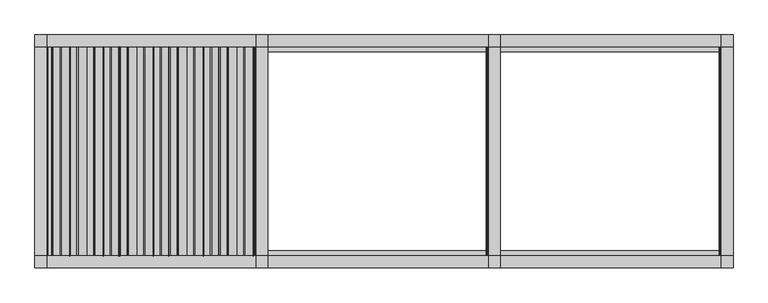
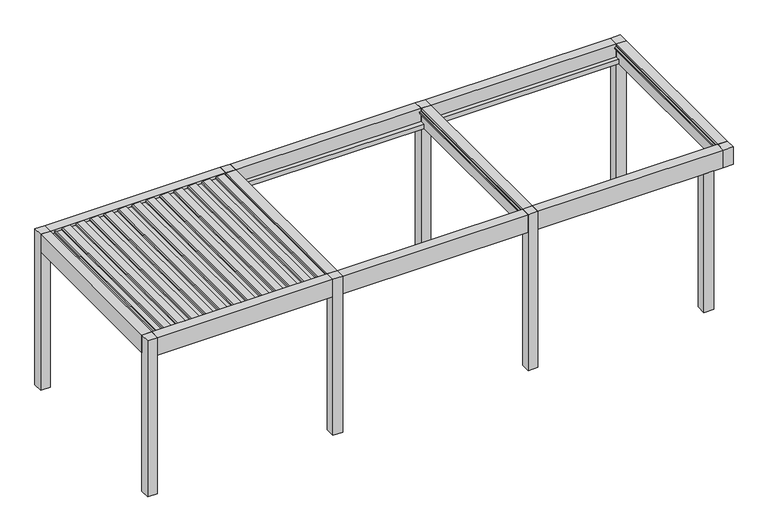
"""IFC4 building model written with IfcOpenShell, lengths in millimetres: proxy geometry, Renson_Amani_Patio_Cover : Renson_Amani_Patio_Cover."""

from ifc_helpers import new_model, si_unit, point, frame, frame_2d, origin, origin_with_axes, place, context, project, spatial, polyline, circle_curve, trimmed, segment, composite_curve, outline, extrude, source, transform, mapped, element, save


def generic_models_67e6f143(model_context):
    return source(origin(), model_context, "Body", "SweptSolid", [
        extrude(outline(composite_curve([segment(polyline([(2483.35, 1073.7289238), (2511.01198, 1076.1490335), (2512.3970364, 1104.984284), (2531.8911096, 1101.5469529), (2526.6075693, 991.549838)]), True, "CONTINUOUS"), segment(trimmed(circle_curve(frame_2d((2511.6248435, 992.26951)), 15.0), [point((2526.6075693, 991.549838))], [point((2514.2295662, 977.4973937))], False, "CARTESIAN"), True, "CONTINUOUS"), segment(polyline([(2514.2295662, 977.4973937), (2495.0, 974.1067023), (2495.0, 886.3709263), (2512.0788237, 883.3594689), (2511.3450182, 868.0824984), (2483.35, 865.6332517), (2483.35, 1073.7289238)]), True, "CONTINUOUS")], self_intersect=False)), frame((0.0, -1350.0, 0.0), z_axis=(0.0, 1.0, 0.0), x_axis=(0.0, 0.0, 1.0)), (0.0, 0.0, 1.0), 2700.0),
        extrude(outline(composite_curve([segment(polyline([(2483.35, 858.7132078), (2511.01198, 861.1333174), (2512.3970364, 889.9685679), (2531.8911096, 886.5312368), (2526.6075693, 776.534122)]), True, "CONTINUOUS"), segment(trimmed(circle_curve(frame_2d((2511.6248435, 777.2537939)), 15.0), [point((2526.6075693, 776.534122))], [point((2514.2295662, 762.4816776))], False, "CARTESIAN"), True, "CONTINUOUS"), segment(polyline([(2514.2295662, 762.4816776), (2495.0, 759.0909863), (2495.0, 671.3552102), (2512.0788237, 668.3437528), (2511.3450182, 653.0667824), (2483.35, 650.6175356), (2483.35, 858.7132078)]), True, "CONTINUOUS")], self_intersect=False)), frame((0.0, -1350.0, 0.0), z_axis=(0.0, 1.0, 0.0), x_axis=(0.0, 0.0, 1.0)), (0.0, 0.0, 1.0), 2700.0),
        extrude(outline(composite_curve([segment(polyline([(2483.35, 643.6974917), (2511.01198, 646.1176014), (2512.3970364, 674.9528519), (2531.8911096, 671.5155208), (2526.6075693, 561.5184059)]), True, "CONTINUOUS"), segment(trimmed(circle_curve(frame_2d((2511.6248435, 562.2380779)), 15.0), [point((2526.6075693, 561.5184059))], [point((2514.2295662, 547.4659616))], False, "CARTESIAN"), True, "CONTINUOUS"), segment(polyline([(2514.2295662, 547.4659616), (2495.0, 544.0752702), (2495.0, 456.3394942), (2512.0788237, 453.3280368), (2511.3450182, 438.0510663), (2483.35, 435.6018196), (2483.35, 643.6974917)]), True, "CONTINUOUS")], self_intersect=False)), frame((0.0, -1350.0, 0.0), z_axis=(0.0, 1.0, 0.0), x_axis=(0.0, 0.0, 1.0)), (0.0, 0.0, 1.0), 2700.0),
        extrude(outline(composite_curve([segment(polyline([(2483.35, 428.6817757), (2511.01198, 431.1018854), (2512.3970364, 459.9371358), (2531.8911096, 456.4998047), (2526.6075693, 346.5026899)]), True, "CONTINUOUS"), segment(trimmed(circle_curve(frame_2d((2511.6248435, 347.2223618)), 15.0), [point((2526.6075693, 346.5026899))], [point((2514.2295662, 332.4502455))], False, "CARTESIAN"), True, "CONTINUOUS"), segment(polyline([(2514.2295662, 332.4502455), (2495.0, 329.0595542), (2495.0, 241.3237782), (2512.0788237, 238.3123207), (2511.3450182, 223.0353503), (2483.35, 220.5861035), (2483.35, 428.6817757)]), True, "CONTINUOUS")], self_intersect=False)), frame((0.0, -1350.0, 0.0), z_axis=(0.0, 1.0, 0.0), x_axis=(0.0, 0.0, 1.0)), (0.0, 0.0, 1.0), 2700.0),
        extrude(outline(composite_curve([segment(polyline([(2483.35, 213.6660597), (2511.01198, 216.0861693), (2512.3970364, 244.9214198), (2531.8911096, 241.4840887), (2526.6075693, 131.4869738)]), True, "CONTINUOUS"), segment(trimmed(circle_curve(frame_2d((2511.6248435, 132.2066458)), 15.0), [point((2526.6075693, 131.4869738))], [point((2514.2295662, 117.4345295))], False, "CARTESIAN"), True, "CONTINUOUS"), segment(polyline([(2514.2295662, 117.4345295), (2495.0, 114.0438381), (2495.0, 26.3080621), (2512.0788237, 23.2966047), (2511.3450182, 8.0196342), (2483.35, 5.5703875), (2483.35, 213.6660597)]), True, "CONTINUOUS")], self_intersect=False)), frame((0.0, -1350.0, 0.0), z_axis=(0.0, 1.0, 0.0), x_axis=(0.0, 0.0, 1.0)), (0.0, 0.0, 1.0), 2700.0),
        extrude(outline(composite_curve([segment(polyline([(2483.35, -1.3496564), (2511.01198, 1.0704533), (2512.3970364, 29.9057037), (2531.8911096, 26.4683726), (2526.6075693, -83.5287422)]), True, "CONTINUOUS"), segment(trimmed(circle_curve(frame_2d((2511.6248435, -82.8090703)), 15.0), [point((2526.6075693, -83.5287422))], [point((2514.2295662, -97.5811866))], False, "CARTESIAN"), True, "CONTINUOUS"), segment(polyline([(2514.2295662, -97.5811866), (2495.0, -100.9718779), (2495.0, -188.7076539), (2512.0788237, -191.7191114), (2511.3450182, -206.9960818), (2483.35, -209.4453286), (2483.35, -1.3496564)]), True, "CONTINUOUS")], self_intersect=False)), frame((0.0, -1350.0, 0.0), z_axis=(0.0, 1.0, 0.0), x_axis=(0.0, 0.0, 1.0)), (0.0, 0.0, 1.0), 2700.0),
        extrude(outline(composite_curve([segment(polyline([(2483.35, -216.3653724), (2511.01198, -213.9452628), (2512.3970364, -185.1100123), (2531.8911096, -188.5473434), (2526.6075693, -298.5444582)]), True, "CONTINUOUS"), segment(trimmed(circle_curve(frame_2d((2511.6248435, -297.8247863)), 15.0), [point((2526.6075693, -298.5444582))], [point((2514.2295662, -312.5969026))], False, "CARTESIAN"), True, "CONTINUOUS"), segment(polyline([(2514.2295662, -312.5969026), (2495.0, -315.987594), (2495.0, -403.72337), (2512.0788237, -406.7348274), (2511.3450182, -422.0117979), (2483.35, -424.4610446), (2483.35, -216.3653724)]), True, "CONTINUOUS")], self_intersect=False)), frame((0.0, -1350.0, 0.0), z_axis=(0.0, 1.0, 0.0), x_axis=(0.0, 0.0, 1.0)), (0.0, 0.0, 1.0), 2700.0),
        extrude(outline(composite_curve([segment(polyline([(2483.35, -431.3810885), (2511.01198, -428.9609788), (2512.3970364, -400.1257284), (2531.8911096, -403.5630594), (2526.6075693, -513.5601743)]), True, "CONTINUOUS"), segment(trimmed(circle_curve(frame_2d((2511.6248435, -512.8405024)), 15.0), [point((2526.6075693, -513.5601743))], [point((2514.2295662, -527.6126187))], False, "CARTESIAN"), True, "CONTINUOUS"), segment(polyline([(2514.2295662, -527.6126187), (2495.0, -531.00331), (2495.0, -618.739086), (2512.0788237, -621.7505434), (2511.3450182, -637.0275139), (2483.35, -639.4767606), (2483.35, -431.3810885)]), True, "CONTINUOUS")], self_intersect=False)), frame((0.0, -1350.0, 0.0), z_axis=(0.0, 1.0, 0.0), x_axis=(0.0, 0.0, 1.0)), (0.0, 0.0, 1.0), 2700.0),
        extrude(outline(composite_curve([segment(polyline([(2483.35, -646.3968045), (2511.01198, -643.9766949), (2512.3970364, -615.1414444), (2531.8911096, -618.5787755), (2526.6075693, -728.5758903)]), True, "CONTINUOUS"), segment(trimmed(circle_curve(frame_2d((2511.6248435, -727.8562184)), 15.0), [point((2526.6075693, -728.5758903))], [point((2514.2295662, -742.6283347))], False, "CARTESIAN"), True, "CONTINUOUS"), segment(polyline([(2514.2295662, -742.6283347), (2495.0, -746.019026), (2495.0, -833.7548021), (2512.0788237, -836.7662595), (2511.3450182, -852.04323), (2483.35, -854.4924767), (2483.35, -646.3968045)]), True, "CONTINUOUS")], self_intersect=False)), frame((0.0, -1350.0, 0.0), z_axis=(0.0, 1.0, 0.0), x_axis=(0.0, 0.0, 1.0)), (0.0, 0.0, 1.0), 2700.0),
        extrude(outline(composite_curve([segment(polyline([(2483.35, -861.4125206), (2511.01198, -858.9924109), (2512.3970364, -830.1571605), (2531.8911096, -833.5944915), (2526.6075693, -943.5916064)]), True, "CONTINUOUS"), segment(trimmed(circle_curve(frame_2d((2511.6248435, -942.8719345)), 15.0), [point((2526.6075693, -943.5916064))], [point((2514.2295662, -957.6440508))], False, "CARTESIAN"), True, "CONTINUOUS"), segment(polyline([(2514.2295662, -957.6440508), (2495.0, -961.0347421), (2495.0, -1048.7705181), (2512.0788237, -1051.7819755), (2511.3450182, -1067.058946), (2483.35, -1069.5081927), (2483.35, -861.4125206)]), True, "CONTINUOUS")], self_intersect=False)), frame((0.0, -1350.0, 0.0), z_axis=(0.0, 1.0, 0.0), x_axis=(0.0, 0.0, 1.0)), (0.0, 0.0, 1.0), 2700.0),
        extrude(outline(composite_curve([segment(polyline([(2483.35, 1288.7446399), (2511.01198, 1291.1647495), (2512.3970364, 1320.0), (2531.8911096, 1316.5626689), (2526.6075693, 1206.5655541)]), True, "CONTINUOUS"), segment(trimmed(circle_curve(frame_2d((2511.6248435, 1207.285226)), 15.0), [point((2526.6075693, 1206.5655541))], [point((2514.2295662, 1192.5131097))], False, "CARTESIAN"), True, "CONTINUOUS"), segment(polyline([(2514.2295662, 1192.5131097), (2495.0, 1189.1224184), (2495.0, 1101.3866423), (2512.0788237, 1098.3751849), (2511.3450182, 1083.0982144), (2483.35, 1080.6489677), (2483.35, 1288.7446399)]), True, "CONTINUOUS")], self_intersect=False)), frame((0.0, -1350.0, 0.0), z_axis=(0.0, 1.0, 0.0), x_axis=(0.0, 0.0, 1.0)), (0.0, 0.0, 1.0), 2700.0),
        extrude(outline(composite_curve([segment(polyline([(2483.35, -1076.4282366), (2511.01198, -1074.008127), (2512.3970364, -1045.1728765), (2531.8911096, -1048.6102076), (2526.6075693, -1158.6073224)]), True, "CONTINUOUS"), segment(trimmed(circle_curve(frame_2d((2511.6248435, -1157.8876505)), 15.0), [point((2526.6075693, -1158.6073224))], [point((2514.2295662, -1172.6597668))], False, "CARTESIAN"), True, "CONTINUOUS"), segment(polyline([(2514.2295662, -1172.6597668), (2495.0, -1176.0504581), (2495.0, -1263.7862342), (2512.0788237, -1266.7976916), (2511.3450182, -1282.0746621), (2483.35, -1284.5239088), (2483.35, -1076.4282366)]), True, "CONTINUOUS")], self_intersect=False)), frame((0.0, -1350.0, 0.0), z_axis=(0.0, 1.0, 0.0), x_axis=(0.0, 0.0, 1.0)), (0.0, 0.0, 1.0), 2700.0),
        extrude(outline(polyline([(7200.0, -1350.0), (7200.0, -1500.0), (7050.0, -1500.0), (7050.0, -1350.0), (7200.0, -1350.0)])), origin_with_axes(), (0.0, 0.0, 1.0), 2250.0),
        extrude(outline(polyline([(7500.0, 1500.0), (7500.0, 1350.0), (7350.0, 1350.0), (7350.0, 1500.0), (7500.0, 1500.0)])), origin_with_axes(), (0.0, 0.0, 1.0), 2535.0),
        extrude(outline(polyline([(4500.0, 1500.0), (4500.0, 1350.0), (4350.0, 1350.0), (4350.0, 1500.0), (4500.0, 1500.0)])), origin_with_axes(), (0.0, 0.0, 1.0), 2535.0),
        extrude(outline(polyline([(7500.0, -1350.0), (7500.0, -1500.0), (7350.0, -1500.0), (7350.0, -1350.0), (7500.0, -1350.0)])), frame((0.0, 0.0, 2250.0), z_axis=(0.0, 0.0, 1.0), x_axis=(1.0, 0.0, 0.0)), (0.0, 0.0, 1.0), 285.0),
        extrude(outline(polyline([(4500.0, -1350.0), (4500.0, -1500.0), (4350.0, -1500.0), (4350.0, -1350.0), (4500.0, -1350.0)])), origin_with_axes(), (0.0, 0.0, 1.0), 2535.0),
        extrude(outline(polyline([(1500.0, -1350.0), (1500.0, -1500.0), (1350.0, -1500.0), (1350.0, -1350.0), (1500.0, -1350.0)])), origin_with_axes(), (0.0, 0.0, 1.0), 2535.0),
        extrude(outline(polyline([(1500.0, 1500.0), (1500.0, 1350.0), (1350.0, 1350.0), (1350.0, 1500.0), (1500.0, 1500.0)])), origin_with_axes(), (0.0, 0.0, 1.0), 2535.0),
        extrude(outline(polyline([(-1350.0, 1350.0), (-1500.0, 1350.0), (-1500.0, 1500.0), (-1350.0, 1500.0), (-1350.0, 1350.0)])), origin_with_axes(), (0.0, 0.0, 1.0), 2535.0),
        extrude(outline(polyline([(-1350.0, -1350.0), (-1350.0, -1500.0), (-1500.0, -1500.0), (-1500.0, -1350.0), (-1350.0, -1350.0)])), origin_with_axes(), (0.0, 0.0, 1.0), 2535.0),
        extrude(outline(polyline([(-1350.0, 2535.0), (-1350.0, 2322.0), (-1280.0000001, 2322.0), (-1280.0000001, 2250.0), (-1500.0, 2250.0), (-1500.0, 2535.0), (-1350.0, 2535.0)])), frame((4500.0, 0.0, 0.0), z_axis=(1.0, 0.0, 0.0), x_axis=(0.0, 1.0, 0.0)), (0.0, 0.0, 1.0), 2850.0),
        extrude(outline(polyline([(1500.0, 2250.0), (1280.0000001, 2250.0), (1280.0000001, 2322.0), (1350.0, 2322.0), (1350.0, 2535.0), (1500.0, 2535.0), (1500.0, 2250.0)])), frame((4500.0, 0.0, 0.0), z_axis=(1.0, 0.0, 0.0), x_axis=(0.0, 1.0, 0.0)), (0.0, 0.0, 1.0), 2850.0),
        extrude(outline(polyline([(2535.0, 7500.0), (2535.0, 7350.0), (2504.6823598, 7350.0), (2504.2449277, 7345.0), (2496.400763, 7345.0), (2480.6555802, 7329.2544156), (2480.6555802, 7319.9090324), (2466.6559373, 7323.6603211), (2466.6559373, 7350.0), (2250.0, 7350.0), (2250.0, 7500.0), (2535.0, 7500.0)])), frame((0.0, -1350.0, 0.0), z_axis=(0.0, 1.0, 0.0), x_axis=(0.0, 0.0, 1.0)), (0.0, 0.0, 1.0), 2700.0),
        extrude(outline(polyline([(-1350.0, 2535.0), (-1350.0, 2322.0), (-1280.0000001, 2322.0), (-1280.0000001, 2250.0), (-1500.0, 2250.0), (-1500.0, 2535.0), (-1350.0, 2535.0)])), frame((1500.0, 0.0, 0.0), z_axis=(1.0, 0.0, 0.0), x_axis=(0.0, 1.0, 0.0)), (0.0, 0.0, 1.0), 2850.0),
        extrude(outline(polyline([(1500.0, 2250.0), (1280.0000001, 2250.0), (1280.0000001, 2322.0), (1350.0, 2322.0), (1350.0, 2535.0), (1500.0, 2535.0), (1500.0, 2250.0)])), frame((1500.0, 0.0, 0.0), z_axis=(1.0, 0.0, 0.0), x_axis=(0.0, 1.0, 0.0)), (0.0, 0.0, 1.0), 2850.0),
        extrude(outline(polyline([(2535.0, 4500.0), (2535.0, 4350.0), (2504.6823598, 4350.0), (2504.2449277, 4345.0), (2496.400763, 4345.0), (2480.6555802, 4329.2544156), (2480.6555802, 4319.9090324), (2466.6559373, 4323.6603211), (2466.6559373, 4350.0), (2250.0, 4350.0), (2250.0, 4500.0), (2535.0, 4500.0)])), frame((0.0, -1350.0, 0.0), z_axis=(0.0, 1.0, 0.0), x_axis=(0.0, 0.0, 1.0)), (0.0, 0.0, 1.0), 2700.0),
        extrude(outline(polyline([(2466.6559373, -1350.0), (2466.6559373, -1290.0), (2480.6555802, -1286.2487113), (2480.6555802, -1329.5940945), (2496.400763, -1345.0), (2504.2449277, -1345.0), (2504.6823598, -1350.0), (2466.6559373, -1350.0)])), frame((0.0, -1350.0, 0.0), z_axis=(0.0, 1.0, 0.0), x_axis=(0.0, 0.0, 1.0)), (0.0, 0.0, 1.0), 2700.0),
        extrude(outline(polyline([(-1350.0, -1350.0), (-1500.0, -1350.0), (-1500.0, 1350.0), (-1350.0, 1350.0), (-1350.0, -1350.0)])), frame((0.0, 0.0, 2250.0), z_axis=(0.0, 0.0, 1.0), x_axis=(1.0, 0.0, 0.0)), (0.0, 0.0, 1.0), 285.0),
        extrude(outline(polyline([(2535.0, 1500.0), (2535.0, 1350.0), (2504.6904658, 1350.0), (2504.2449277, 1345.0), (2496.400763, 1345.0), (2480.6555802, 1329.2544156), (2480.6555802, 1319.9090324), (2466.6559373, 1323.6603211), (2466.6559373, 1350.0), (2250.0, 1350.0), (2250.0, 1500.0), (2535.0, 1500.0)])), frame((0.0, -1350.0, 0.0), z_axis=(0.0, 1.0, 0.0), x_axis=(0.0, 0.0, 1.0)), (0.0, 0.0, 1.0), 2700.0),
        extrude(outline(polyline([(-1350.0, 2535.0), (-1350.0, 2322.0), (-1280.0000001, 2322.0), (-1280.0000001, 2250.0), (-1500.0, 2250.0), (-1500.0, 2535.0), (-1350.0, 2535.0)])), frame((-1350.0, 0.0, 0.0), z_axis=(1.0, 0.0, 0.0), x_axis=(0.0, 1.0, 0.0)), (0.0, 0.0, 1.0), 2700.0),
        extrude(outline(polyline([(1500.0, 2250.0), (1280.0000001, 2250.0), (1280.0000001, 2322.0), (1350.0, 2322.0), (1350.0, 2535.0), (1500.0, 2535.0), (1500.0, 2250.0)])), frame((-1350.0, 0.0, 0.0), z_axis=(1.0, 0.0, 0.0), x_axis=(0.0, 1.0, 0.0)), (0.0, 0.0, 1.0), 2700.0),
    ])


if __name__ == "__main__":
    model = new_model("IFC4")
    model_context = context("Model", 3, world=origin())
    ifc_project = project(units=[si_unit("LENGTHUNIT", "METRE", prefix="MILLI")], contexts=[model_context])
    site = spatial("IfcSite", under=ifc_project)
    building = spatial("IfcBuilding", under=site)
    placement = place(None, origin())
    generic_models_shape = generic_models_67e6f143(model_context)
    element("IfcBuildingElementProxy", 1, Name="Renson_Amani_Patio_Cover : Renson_Amani_Patio_Cover", ObjectType="Renson_Amani_Patio_Cover : Renson_Amani_Patio_Cover", at=placement, inside=building, context=model_context, shape_type="MappedRepresentation", body=[
        mapped(generic_models_shape, transform((0.0, 0.0, 0.0), x_axis=(1.0, 0.0, 0.0), y_axis=(0.0, 1.0, 0.0), z_axis=(0.0, 0.0, 1.0))),
    ])
    save(model, "model.ifc")
